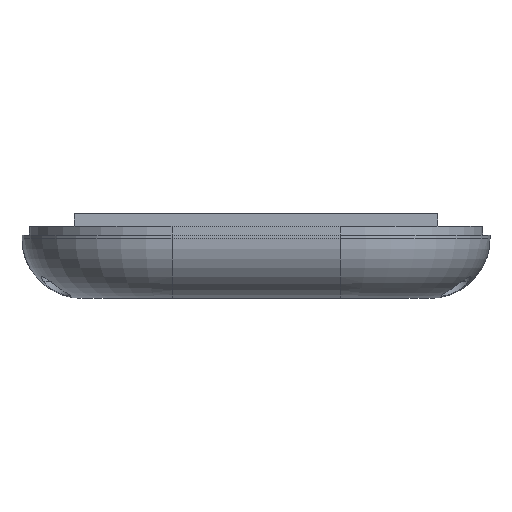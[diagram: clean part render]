
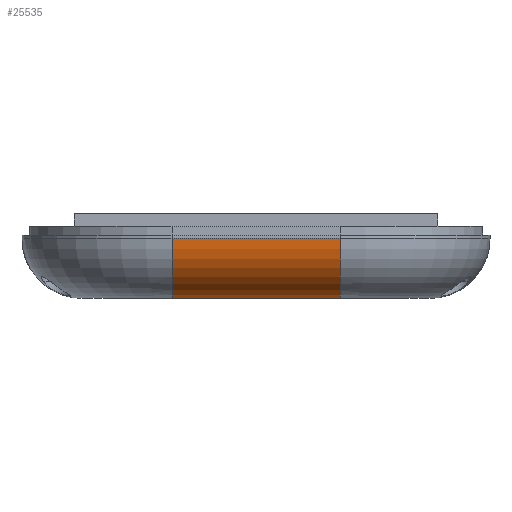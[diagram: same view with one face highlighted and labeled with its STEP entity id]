
A CAD part, front view. The second image highlights one B-rep face of the part: STEP entity #25535.
In plain terms, the highlighted cylindrical face has radius 10 mm (diameter 20 mm), a partial arc.
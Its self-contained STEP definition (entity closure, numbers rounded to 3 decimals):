
#107 = TOROIDAL_SURFACE('',#108,15.,10.);
#108 = AXIS2_PLACEMENT_3D('',#109,#110,#111);
#109 = CARTESIAN_POINT('',(-14.,-50.,-14.));
#110 = DIRECTION('',(0.,0.,-1.));
#111 = DIRECTION('',(-1.,0.,0.));
#1757 = VERTEX_POINT('',#1758);
#1758 = CARTESIAN_POINT('',(-14.,-65.,-24.));
#1773 = PLANE('',#1774);
#1774 = AXIS2_PLACEMENT_3D('',#1775,#1776,#1777);
#1775 = CARTESIAN_POINT('',(0.,0.,-24.));
#1776 = DIRECTION('',(0.,0.,-1.));
#1777 = DIRECTION('',(-1.,0.,0.));
#1789 = EDGE_CURVE('',#1790,#1757,#1792,.T.);
#1790 = VERTEX_POINT('',#1791);
#1791 = CARTESIAN_POINT('',(-14.,-75.,-14.));
#1792 = SURFACE_CURVE('',#1793,(#1798,#1805),.PCURVE_S1.);
#1793 = CIRCLE('',#1794,10.);
#1794 = AXIS2_PLACEMENT_3D('',#1795,#1796,#1797);
#1795 = CARTESIAN_POINT('',(-14.,-65.,-14.));
#1796 = DIRECTION('',(1.,0.,0.));
#1797 = DIRECTION('',(0.,-1.,0.));
#1798 = PCURVE('',#107,#1799);
#1799 = DEFINITIONAL_REPRESENTATION('',(#1800),#1804);
#1800 = LINE('',#1801,#1802);
#1801 = CARTESIAN_POINT('',(4.712,0.));
#1802 = VECTOR('',#1803,1.);
#1803 = DIRECTION('',(0.,1.));
#1804 = ( GEOMETRIC_REPRESENTATION_CONTEXT(2) 
PARAMETRIC_REPRESENTATION_CONTEXT() REPRESENTATION_CONTEXT('2D SPACE',''
  ) );
#1805 = PCURVE('',#1806,#1811);
#1806 = CYLINDRICAL_SURFACE('',#1807,10.);
#1807 = AXIS2_PLACEMENT_3D('',#1808,#1809,#1810);
#1808 = CARTESIAN_POINT('',(7.,-65.,-14.));
#1809 = DIRECTION('',(-1.,0.,0.));
#1810 = DIRECTION('',(0.,-0.707,-0.707));
#1811 = DEFINITIONAL_REPRESENTATION('',(#1812),#1816);
#1812 = LINE('',#1813,#1814);
#1813 = CARTESIAN_POINT('',(7.069,21.));
#1814 = VECTOR('',#1815,1.);
#1815 = DIRECTION('',(-1.,0.));
#1816 = ( GEOMETRIC_REPRESENTATION_CONTEXT(2) 
PARAMETRIC_REPRESENTATION_CONTEXT() REPRESENTATION_CONTEXT('2D SPACE',''
  ) );
#8700 = VERTEX_POINT('',#8701);
#8701 = CARTESIAN_POINT('',(14.,-65.,-24.));
#8720 = TOROIDAL_SURFACE('',#8721,15.,10.);
#8721 = AXIS2_PLACEMENT_3D('',#8722,#8723,#8724);
#8722 = CARTESIAN_POINT('',(14.,-50.,-14.));
#8723 = DIRECTION('',(0.,0.,-1.));
#8724 = DIRECTION('',(-1.,0.,0.));
#8732 = EDGE_CURVE('',#1757,#8700,#8733,.T.);
#8733 = SURFACE_CURVE('',#8734,(#8738,#8745),.PCURVE_S1.);
#8734 = LINE('',#8735,#8736);
#8735 = CARTESIAN_POINT('',(7.,-65.,-24.));
#8736 = VECTOR('',#8737,1.);
#8737 = DIRECTION('',(1.,0.,0.));
#8738 = PCURVE('',#1773,#8739);
#8739 = DEFINITIONAL_REPRESENTATION('',(#8740),#8744);
#8740 = LINE('',#8741,#8742);
#8741 = CARTESIAN_POINT('',(-7.,-65.));
#8742 = VECTOR('',#8743,1.);
#8743 = DIRECTION('',(-1.,0.));
#8744 = ( GEOMETRIC_REPRESENTATION_CONTEXT(2) 
PARAMETRIC_REPRESENTATION_CONTEXT() REPRESENTATION_CONTEXT('2D SPACE',''
  ) );
#8745 = PCURVE('',#1806,#8746);
#8746 = DEFINITIONAL_REPRESENTATION('',(#8747),#8751);
#8747 = LINE('',#8748,#8749);
#8748 = CARTESIAN_POINT('',(5.498,0.));
#8749 = VECTOR('',#8750,1.);
#8750 = DIRECTION('',(0.,-1.));
#8751 = ( GEOMETRIC_REPRESENTATION_CONTEXT(2) 
PARAMETRIC_REPRESENTATION_CONTEXT() REPRESENTATION_CONTEXT('2D SPACE',''
  ) );
#25535 = ADVANCED_FACE('',(#25536),#1806,.T.);
#25536 = FACE_BOUND('',#25537,.T.);
#25537 = EDGE_LOOP('',(#25538,#25539,#25540,#25564));
#25538 = ORIENTED_EDGE('',*,*,#1789,.T.);
#25539 = ORIENTED_EDGE('',*,*,#8732,.T.);
#25540 = ORIENTED_EDGE('',*,*,#25541,.F.);
#25541 = EDGE_CURVE('',#25542,#8700,#25544,.T.);
#25542 = VERTEX_POINT('',#25543);
#25543 = CARTESIAN_POINT('',(14.,-75.,-14.));
#25544 = SURFACE_CURVE('',#25545,(#25550,#25557),.PCURVE_S1.);
#25545 = CIRCLE('',#25546,10.);
#25546 = AXIS2_PLACEMENT_3D('',#25547,#25548,#25549);
#25547 = CARTESIAN_POINT('',(14.,-65.,-14.));
#25548 = DIRECTION('',(1.,0.,0.));
#25549 = DIRECTION('',(0.,-1.,-0.));
#25550 = PCURVE('',#1806,#25551);
#25551 = DEFINITIONAL_REPRESENTATION('',(#25552),#25556);
#25552 = LINE('',#25553,#25554);
#25553 = CARTESIAN_POINT('',(7.069,-7.));
#25554 = VECTOR('',#25555,1.);
#25555 = DIRECTION('',(-1.,0.));
#25556 = ( GEOMETRIC_REPRESENTATION_CONTEXT(2) 
PARAMETRIC_REPRESENTATION_CONTEXT() REPRESENTATION_CONTEXT('2D SPACE',''
  ) );
#25557 = PCURVE('',#8720,#25558);
#25558 = DEFINITIONAL_REPRESENTATION('',(#25559),#25563);
#25559 = LINE('',#25560,#25561);
#25560 = CARTESIAN_POINT('',(4.712,0.));
#25561 = VECTOR('',#25562,1.);
#25562 = DIRECTION('',(0.,1.));
#25563 = ( GEOMETRIC_REPRESENTATION_CONTEXT(2) 
PARAMETRIC_REPRESENTATION_CONTEXT() REPRESENTATION_CONTEXT('2D SPACE',''
  ) );
#25564 = ORIENTED_EDGE('',*,*,#25565,.T.);
#25565 = EDGE_CURVE('',#25542,#1790,#25566,.T.);
#25566 = SURFACE_CURVE('',#25567,(#25571,#25578),.PCURVE_S1.);
#25567 = LINE('',#25568,#25569);
#25568 = CARTESIAN_POINT('',(7.,-75.,-14.));
#25569 = VECTOR('',#25570,1.);
#25570 = DIRECTION('',(-1.,0.,0.));
#25571 = PCURVE('',#1806,#25572);
#25572 = DEFINITIONAL_REPRESENTATION('',(#25573),#25577);
#25573 = LINE('',#25574,#25575);
#25574 = CARTESIAN_POINT('',(7.069,0.));
#25575 = VECTOR('',#25576,1.);
#25576 = DIRECTION('',(0.,1.));
#25577 = ( GEOMETRIC_REPRESENTATION_CONTEXT(2) 
PARAMETRIC_REPRESENTATION_CONTEXT() REPRESENTATION_CONTEXT('2D SPACE',''
  ) );
#25578 = PCURVE('',#25579,#25584);
#25579 = PLANE('',#25580);
#25580 = AXIS2_PLACEMENT_3D('',#25581,#25582,#25583);
#25581 = CARTESIAN_POINT('',(14.,-75.,-12.));
#25582 = DIRECTION('',(0.,-1.,0.));
#25583 = DIRECTION('',(-1.,0.,0.));
#25584 = DEFINITIONAL_REPRESENTATION('',(#25585),#25589);
#25585 = LINE('',#25586,#25587);
#25586 = CARTESIAN_POINT('',(7.,2.));
#25587 = VECTOR('',#25588,1.);
#25588 = DIRECTION('',(1.,0.));
#25589 = ( GEOMETRIC_REPRESENTATION_CONTEXT(2) 
PARAMETRIC_REPRESENTATION_CONTEXT() REPRESENTATION_CONTEXT('2D SPACE',''
  ) );
